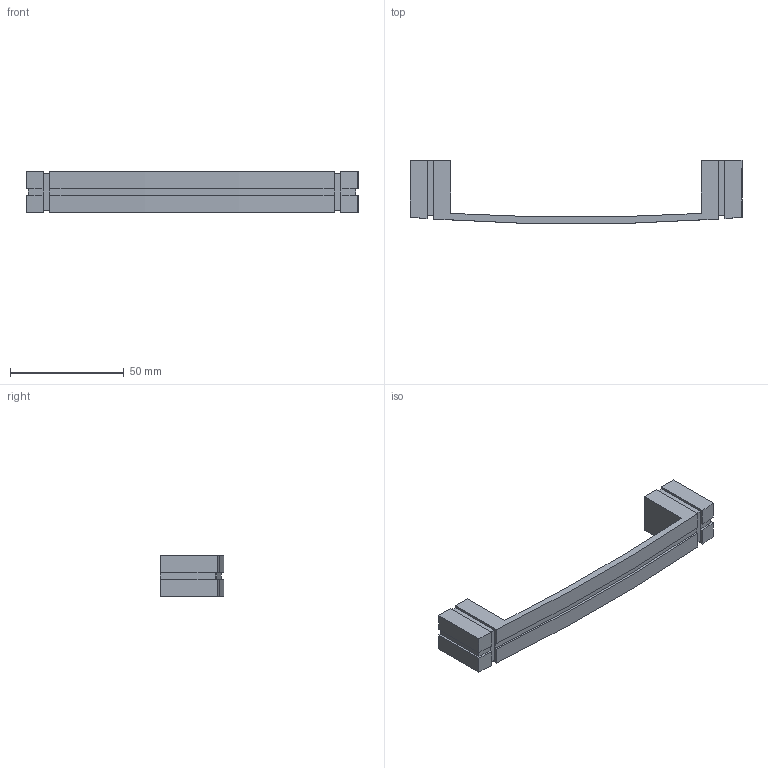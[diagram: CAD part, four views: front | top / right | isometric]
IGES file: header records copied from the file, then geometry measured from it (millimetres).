
Start section: Data from Parasolid IGES Translator 15.0.47, Copyright(c) 2006 Siemens P LM Software. All Rights Reserved.
Global section: file name: 115266.igs; native system:  By UGS Corp.; preprocessor: XPlus GENERIC/IGES 3.0; author: Noname; organization: Noname; date: 20140122.103206; units: millimetre
Bounding box: 146 x 27.76 x 18 mm (x, y, z)
Surface area: 10356.6 mm2 (no closed solid volume)
Topology: 0 solids, 0 shells, 50 faces, 276 edges, 274 vertices
Faces by surface type: extrusion 38, revolution 12
